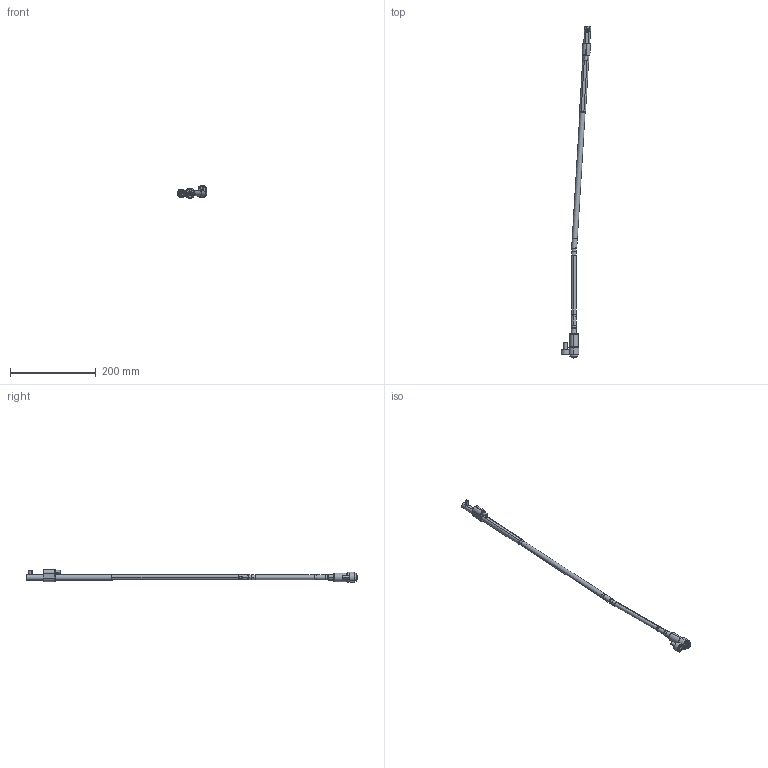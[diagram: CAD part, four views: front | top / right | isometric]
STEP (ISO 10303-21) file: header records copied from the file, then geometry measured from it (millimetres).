
FILE_DESCRIPTION (( 'STEP AP214' ), '1' );
FILE_NAME ('WL120125-INJ 3,5°.STEP', '2021-03-19T15:39:50', ( '' ), ( '' ), 'SwSTEP 2.0', 'SolidWorks 2019', '' );
FILE_SCHEMA (( 'AUTOMOTIVE_DESIGN' ));
Length unit declared in the file: millimetre
Products named in the file (17): WL120100-D; WL120100-B; WL120125-INJ 3,5°; Web-WL12-F01; Web-WL12-A1; 9DR2808-TOR; Web-WL12-A8; 1DIN912820_DIN 912 M8 x 20 --- 20C; Web-WL12-XX_OFF-WL120125-3,5; WL120100-B1; 3IMAN5X3-150_con sellador; Web-WL12-F00.SLDPRT; WL120100-E; 8WL12EJEP; Web-WL12-A3; 1DIN912645_DIN 912 M6 x 45 --- 45C; Web-WL12-A2
Assembly tree (16 placements, depth 3):
  WL120125-INJ 3,5°
    Web-WL12-A8
    Web-WL12-XX_OFF-WL120125-3,5
    Web-WL12-A3
    Web-WL12-A2
    Web-WL12-A1
    Web-WL12-F00.SLDPRT
      Web-WL12-F01
      1DIN912820_DIN 912 M8 x 20 --- 20C
      1DIN912645_DIN 912 M6 x 45 --- 45C
    WL120100-D
    8WL12EJEP
    WL120100-E
    9DR2808-TOR
    WL120100-B
      WL120100-B1
      3IMAN5X3-150_con sellador
Bounding box: 68.66 x 772.42 x 29.9 mm (x, y, z)
Volume: 116547.6 mm3; surface area: 51029.7 mm2
Topology: 15 solids, 15 shells, 432 faces, 906 edges, 525 vertices
Faces by surface type: plane 139, cylinder 123, cone 120, torus 50
Entity records: 13661 total; most frequent: DIRECTION 2240, CARTESIAN_POINT 2104, ORIENTED_EDGE 1788, AXIS2_PLACEMENT_3D 929, EDGE_CURVE 894, VERTEX_POINT 525, EDGE_LOOP 477, CIRCLE 476
